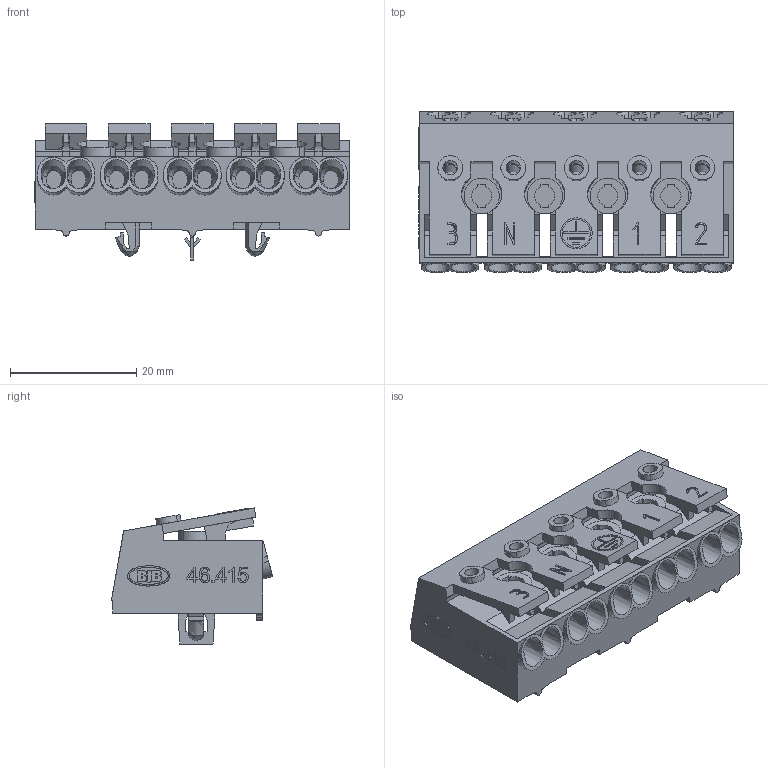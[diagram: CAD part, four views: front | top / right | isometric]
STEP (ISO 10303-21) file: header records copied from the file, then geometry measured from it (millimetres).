
FILE_DESCRIPTION((' '),'1');
FILE_NAME('006YK05Y03.stp','2011-06-17 T09:06:45',(''),(''),'STEP Interface v1.0 by CT CoreTechnologie','3D_Evolution v1.0 by CT CoreTechnologie','');
FILE_SCHEMA(('CONFIG_CONTROL_DESIGN'));
Length unit declared in the file: millimetre
Products named in the file (3): Assem1; 002-R5D-02; 006-K0G-03
Assembly tree (2 placements, depth 2):
  Assem1
    002-R5D-02
    006-K0G-03
Bounding box: 49.9 x 25.55 x 21.58 mm (x, y, z)
Volume: 11321 mm3; surface area: 9300.7 mm2
Topology: 2 solids, 2 shells, 760 faces, 2121 edges, 1402 vertices
Faces by surface type: plane 503, cylinder 195, bspline 62
Entity records: 36262 total; most frequent: CARTESIAN_POINT 10092, ORIENTED_EDGE 4154, DIRECTION 3733, EDGE_CURVE 2077, VECTOR 1511, LINE 1511, VERTEX_POINT 1384, AXIS2_PLACEMENT_3D 1111
